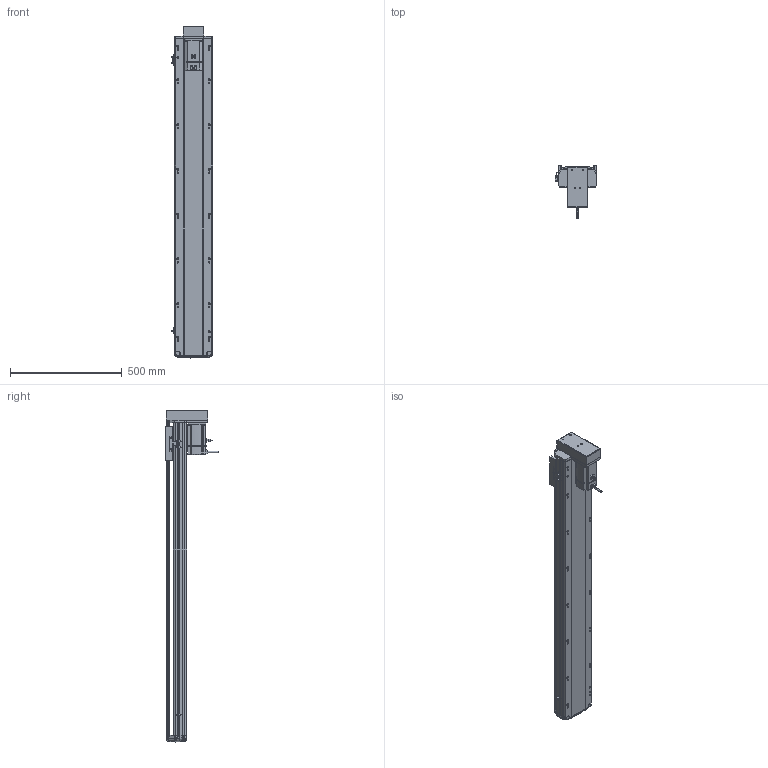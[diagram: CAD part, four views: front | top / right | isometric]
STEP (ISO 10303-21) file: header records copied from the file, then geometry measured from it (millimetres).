
FILE_DESCRIPTION (( 'STEP AP214' ), '1' );
FILE_NAME ('RTH17-XX-1200-M-M75-C4.STEP', '2025-10-24T10:28:25', ( '' ), ( '' ), 'SwSTEP 2.0', 'SolidWorks 2018', '' );
FILE_SCHEMA (( 'AUTOMOTIVE_DESIGN' ));
Length unit declared in the file: millimetre
Products named in the file (10): N_RTH17-GY-001P^RTH17-XX-XX-M-M75-C4（方程式）; N_OMRON EE-SX672 換覜ん^RTH17-XX-XX-M-M75-C4ㄗ源最宒ㄘ; N_RTH17-M-008-P75电机安装板下折750W^RTH17-XX-XX-M-M75-C4（方程式）; RTH17-XX-1200-M-M75-C4; N_M75^RTH17-XX-XX-M-M75-C4（方程式）; N_RTH17-M-007上盖^RTH17-XX-XX-M-M75-C4（方程式）; N_RTH17-M-011底座^RTH17-XX-XX-M-M75-C4（方程式）; N_RTH-BL-012 感应片(外置)^RTH17-XX-XX-M-M75-C4（方程式）; N_RTH17-E-004丝杆螺母连接座^RTH17-XX-XX-M-M75-C4（方程式）; N_RTH17-M-018盖子^RTH17-XX-XX-M-M75-C4（方程式）
Assembly tree (11 placements, depth 2):
  RTH17-XX-1200-M-M75-C4
    N_RTH17-M-011底座^RTH17-XX-XX-M-M75-C4（方程式）
    N_RTH17-M-007上盖^RTH17-XX-XX-M-M75-C4（方程式）
    N_M75^RTH17-XX-XX-M-M75-C4（方程式）
    N_OMRON EE-SX672 換覜ん^RTH17-XX-XX-M-M75-C4ㄗ源最宒ㄘ  x3
    N_RTH-BL-012 感应片(外置)^RTH17-XX-XX-M-M75-C4（方程式）
    N_RTH17-M-008-P75电机安装板下折750W^RTH17-XX-XX-M-M75-C4（方程式）
    N_RTH17-M-018盖子^RTH17-XX-XX-M-M75-C4（方程式）
    N_RTH17-E-004丝杆螺母连接座^RTH17-XX-XX-M-M75-C4（方程式）
    N_RTH17-GY-001P^RTH17-XX-XX-M-M75-C4（方程式）
Bounding box: 183.5 x 240.7 x 1483.19 mm (x, y, z)
Volume: 11660321.2 mm3; surface area: 1583618.5 mm2
Topology: 10 solids, 12 shells, 1789 faces, 4958 edges, 3212 vertices
Faces by surface type: plane 834, cylinder 541, bspline 377, cone 28, torus 9
Entity records: 52827 total; most frequent: CARTESIAN_POINT 21028, ORIENTED_EDGE 6940, DIRECTION 5764, EDGE_CURVE 3474, VERTEX_POINT 2248, AXIS2_PLACEMENT_3D 1951, LINE 1862, VECTOR 1862
